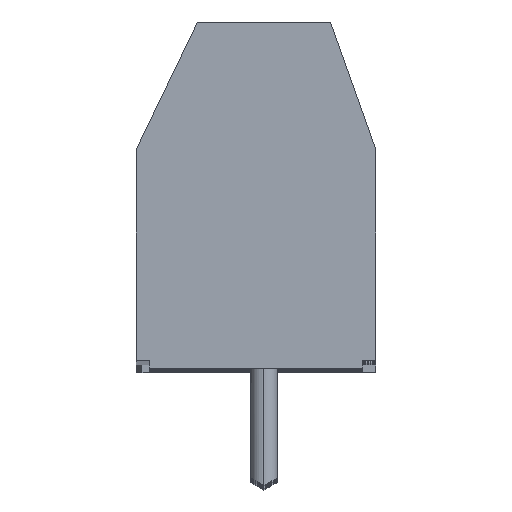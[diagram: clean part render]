
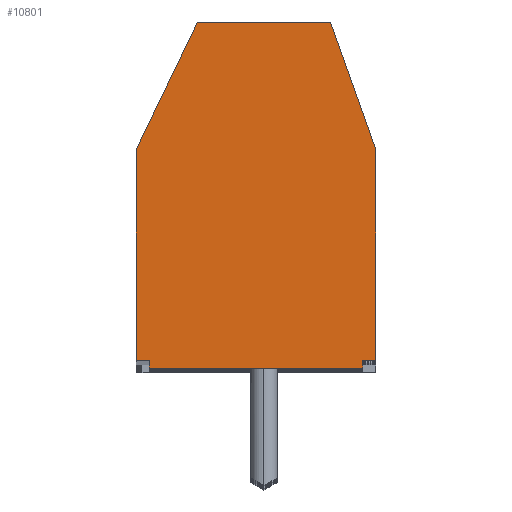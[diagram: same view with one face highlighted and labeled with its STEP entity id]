
A CAD part, top view. The second image highlights one B-rep face of the part: STEP entity #10801.
In plain terms, the highlighted planar face has unit normal (0, 0, 1).
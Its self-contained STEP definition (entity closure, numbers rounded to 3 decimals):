
#4105 = CARTESIAN_POINT ( 'NONE',  ( 4.2, 7.9, 0. ) ) ;
#4110 = DIRECTION ( 'NONE',  ( 0., -1., 0. ) ) ;
#4111 = VECTOR ( 'NONE', #4110, 1000. ) ;
#4112 = CARTESIAN_POINT ( 'NONE',  ( 4.2, 7.9, 0. ) ) ;
#4113 = LINE ( 'NONE', #4112, #4111 ) ;
#4477 = DIRECTION ( 'NONE',  ( 0., 1., 0. ) ) ;
#4478 = VECTOR ( 'NONE', #4477, 1000. ) ;
#4479 = CARTESIAN_POINT ( 'NONE',  ( -4.8, 6.2, 0. ) ) ;
#4480 = LINE ( 'NONE', #4479, #4478 ) ;
#4493 = DIRECTION ( 'NONE',  ( -1., 0., 0. ) ) ;
#4494 = VECTOR ( 'NONE', #4493, 1000. ) ;
#4495 = CARTESIAN_POINT ( 'NONE',  ( -0.3, -0.3, 0. ) ) ;
#4496 = LINE ( 'NONE', #4495, #4494 ) ;
#4531 = CARTESIAN_POINT ( 'NONE',  ( -4.8, 7.9, 0. ) ) ;
#9815 = ORIENTED_EDGE ( 'NONE', *, *, #20165, .F. ) ;
#10801 = ADVANCED_FACE ( 'NONE', ( #32048 ), #32047, .F. ) ;
#10809 = EDGE_LOOP ( 'NONE', ( #10816, #9815, #11001, #11005, #11011, #11020, #11027, #11037, #45937, #10873 ) ) ;
#10816 = ORIENTED_EDGE ( 'NONE', *, *, #10823, .T. ) ;
#10823 = EDGE_CURVE ( 'NONE', #10830, #20167, #32074, .T. ) ;
#10830 = VERTEX_POINT ( 'NONE', #32122 ) ;
#10873 = ORIENTED_EDGE ( 'NONE', *, *, #10877, .T. ) ;
#10877 = EDGE_CURVE ( 'NONE', #10926, #10830, #32170, .T. ) ;
#10921 = EDGE_CURVE ( 'NONE', #10926, #19793, #32268, .T. ) ;
#10926 = VERTEX_POINT ( 'NONE', #32260 ) ;
#11001 = ORIENTED_EDGE ( 'NONE', *, *, #14476, .T. ) ;
#11005 = ORIENTED_EDGE ( 'NONE', *, *, #13786, .T. ) ;
#11011 = ORIENTED_EDGE ( 'NONE', *, *, #20153, .F. ) ;
#11020 = ORIENTED_EDGE ( 'NONE', *, *, #13828, .T. ) ;
#11027 = ORIENTED_EDGE ( 'NONE', *, *, #14186, .T. ) ;
#11037 = ORIENTED_EDGE ( 'NONE', *, *, #19791, .F. ) ;
#13786 = EDGE_CURVE ( 'NONE', #13788, #13790, #46377, .T. ) ;
#13788 = VERTEX_POINT ( 'NONE', #46440 ) ;
#13790 = VERTEX_POINT ( 'NONE', #46439 ) ;
#13828 = EDGE_CURVE ( 'NONE', #13831, #14194, #46446, .T. ) ;
#13831 = VERTEX_POINT ( 'NONE', #46507 ) ;
#14008 = VERTEX_POINT ( 'NONE', #46761 ) ;
#14169 = VERTEX_POINT ( 'NONE', #46880 ) ;
#14186 = EDGE_CURVE ( 'NONE', #14194, #14169, #46870, .T. ) ;
#14194 = VERTEX_POINT ( 'NONE', #46914 ) ;
#14476 = EDGE_CURVE ( 'NONE', #14008, #13788, #47277, .T. ) ;
#19791 = EDGE_CURVE ( 'NONE', #19793, #14169, #4113, .T. ) ;
#19793 = VERTEX_POINT ( 'NONE', #4105 ) ;
#20153 = EDGE_CURVE ( 'NONE', #13831, #13790, #4496, .T. ) ;
#20165 = EDGE_CURVE ( 'NONE', #14008, #20167, #4480, .T. ) ;
#20167 = VERTEX_POINT ( 'NONE', #4531 ) ;
#32043 = DIRECTION ( 'NONE',  ( -1., 0., 0. ) ) ;
#32044 = DIRECTION ( 'NONE',  ( 0., 0., -1. ) ) ;
#32045 = CARTESIAN_POINT ( 'NONE',  ( 4.2, -0.3, 0. ) ) ;
#32046 = AXIS2_PLACEMENT_3D ( 'NONE', #32045, #32044, #32043 ) ;
#32047 = PLANE ( 'NONE',  #32046 ) ;
#32048 = FACE_OUTER_BOUND ( 'NONE', #10809, .T. ) ;
#32071 = DIRECTION ( 'NONE',  ( -0.432, -0.902, 0. ) ) ;
#32072 = VECTOR ( 'NONE', #32071, 1000. ) ;
#32073 = CARTESIAN_POINT ( 'NONE',  ( -3.65, 10.3, 0. ) ) ;
#32074 = LINE ( 'NONE', #32073, #32072 ) ;
#32122 = CARTESIAN_POINT ( 'NONE',  ( -2.5, 12.7, 0. ) ) ;
#32167 = DIRECTION ( 'NONE',  ( -1., 0., 0. ) ) ;
#32168 = VECTOR ( 'NONE', #32167, 1000. ) ;
#32169 = CARTESIAN_POINT ( 'NONE',  ( 4.2, 12.7, 0. ) ) ;
#32170 = LINE ( 'NONE', #32169, #32168 ) ;
#32260 = CARTESIAN_POINT ( 'NONE',  ( 2.5, 12.7, 0. ) ) ;
#32265 = DIRECTION ( 'NONE',  ( 0.334, -0.943, 0. ) ) ;
#32266 = VECTOR ( 'NONE', #32265, 1000. ) ;
#32267 = CARTESIAN_POINT ( 'NONE',  ( 2.5, 12.7, 0. ) ) ;
#32268 = LINE ( 'NONE', #32267, #32266 ) ;
#45937 = ORIENTED_EDGE ( 'NONE', *, *, #10921, .F. ) ;
#46376 = CARTESIAN_POINT ( 'NONE',  ( -4.3, -0.15, 0. ) ) ;
#46377 = LINE ( 'NONE', #46376, #46442 ) ;
#46439 = CARTESIAN_POINT ( 'NONE',  ( -4.3, -0.3, 0. ) ) ;
#46440 = CARTESIAN_POINT ( 'NONE',  ( -4.3, 0., 0. ) ) ;
#46441 = DIRECTION ( 'NONE',  ( 0., -1., 0. ) ) ;
#46442 = VECTOR ( 'NONE', #46441, 1000. ) ;
#46443 = DIRECTION ( 'NONE',  ( 0., 1., 0. ) ) ;
#46444 = VECTOR ( 'NONE', #46443, 1000. ) ;
#46445 = CARTESIAN_POINT ( 'NONE',  ( 3.7, -0.15, 0. ) ) ;
#46446 = LINE ( 'NONE', #46445, #46444 ) ;
#46507 = CARTESIAN_POINT ( 'NONE',  ( 3.7, -0.3, 0. ) ) ;
#46761 = CARTESIAN_POINT ( 'NONE',  ( -4.8, 0., 0. ) ) ;
#46869 = CARTESIAN_POINT ( 'NONE',  ( 3.952, 0., 0. ) ) ;
#46870 = LINE ( 'NONE', #46869, #46930 ) ;
#46880 = CARTESIAN_POINT ( 'NONE',  ( 4.2, 0., 0. ) ) ;
#46914 = CARTESIAN_POINT ( 'NONE',  ( 3.7, 0., 0. ) ) ;
#46929 = DIRECTION ( 'NONE',  ( 1., 0., 0. ) ) ;
#46930 = VECTOR ( 'NONE', #46929, 1000. ) ;
#47274 = DIRECTION ( 'NONE',  ( 1., 0., 0. ) ) ;
#47275 = VECTOR ( 'NONE', #47274, 1000. ) ;
#47276 = CARTESIAN_POINT ( 'NONE',  ( 4.2, 0., 0. ) ) ;
#47277 = LINE ( 'NONE', #47276, #47275 ) ;
